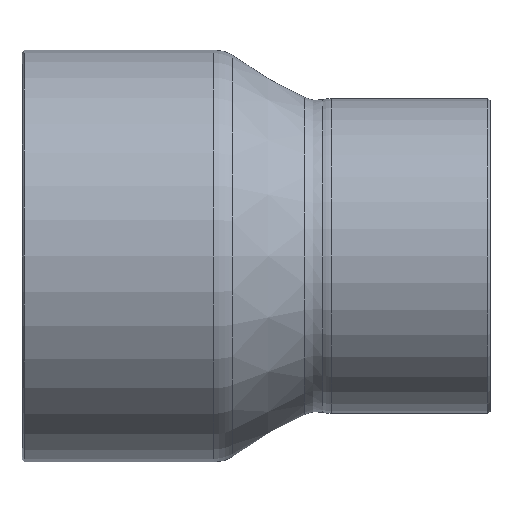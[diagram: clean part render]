
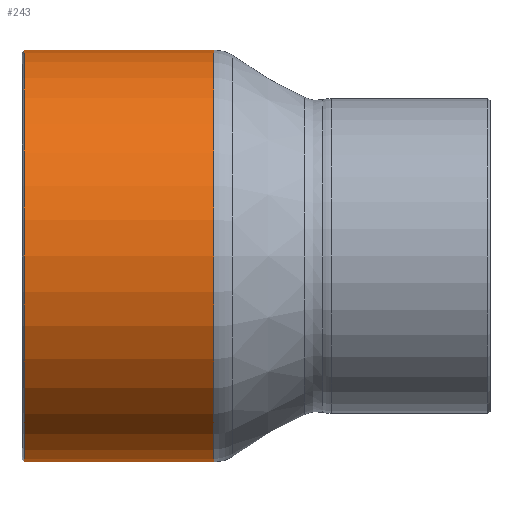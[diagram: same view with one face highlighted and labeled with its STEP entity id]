
A CAD part, front view. The second image highlights one B-rep face of the part: STEP entity #243.
In plain terms, the highlighted cylindrical face has radius 30.628 mm (diameter 61.255 mm), a full revolution.
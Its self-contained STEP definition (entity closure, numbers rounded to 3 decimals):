
#212=CARTESIAN_POINT('',(-46.3,30.628,0.));
#213=VERTEX_POINT('',#212);
#214=CARTESIAN_POINT('',(-46.3,0.0,0.0));
#215=DIRECTION('',(-1.0,0.0,0.0));
#216=DIRECTION('',(0.0,-1.0,0.0));
#217=AXIS2_PLACEMENT_3D('',#214,#215,#216);
#218=CIRCLE('',#217,30.628);
#219=EDGE_CURVE('',#213,#213,#218,.T.);
#224=CARTESIAN_POINT('',(-32.35,0.0,0.0));
#225=DIRECTION('',(1.0,0.0,0.0));
#226=DIRECTION('',(0.0,1.0,0.0));
#227=AXIS2_PLACEMENT_3D('',#224,#225,#226);
#228=CYLINDRICAL_SURFACE('',#227,30.628);
#229=CARTESIAN_POINT('',(-18.1,30.628,0.0));
#230=VERTEX_POINT('',#229);
#231=CARTESIAN_POINT('',(-18.1,0.0,0.0));
#232=DIRECTION('',(1.0,0.0,0.0));
#233=DIRECTION('',(0.0,1.0,0.0));
#234=AXIS2_PLACEMENT_3D('',#231,#232,#233);
#235=CIRCLE('',#234,30.628);
#236=EDGE_CURVE('',#230,#230,#235,.T.);
#237=ORIENTED_EDGE('',*,*,#236,.F.);
#238=EDGE_LOOP('',(#237));
#239=FACE_OUTER_BOUND('',#238,.T.);
#240=ORIENTED_EDGE('',*,*,#219,.F.);
#241=EDGE_LOOP('',(#240));
#242=FACE_BOUND('',#241,.T.);
#243=ADVANCED_FACE('',(#239,#242),#228,.T.);
